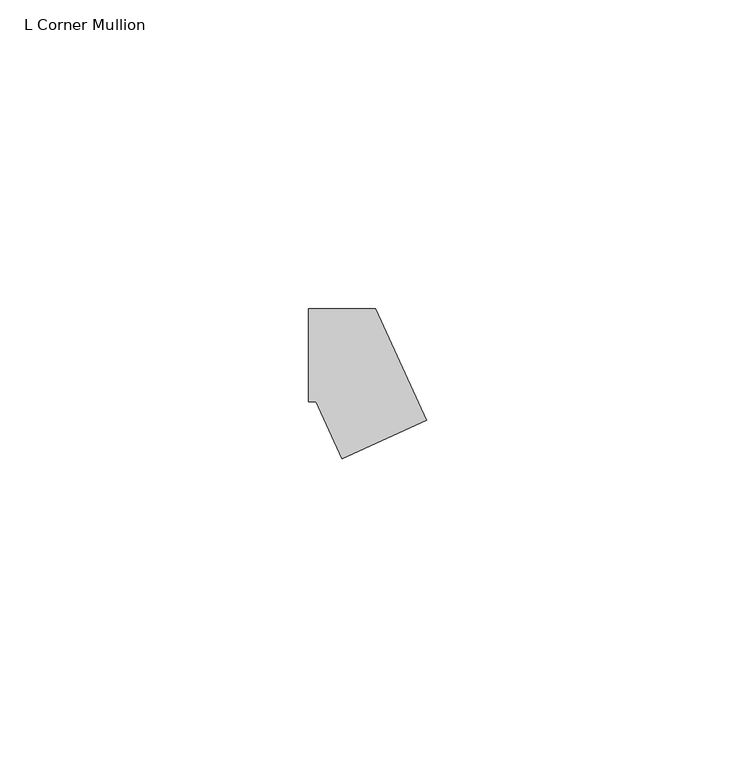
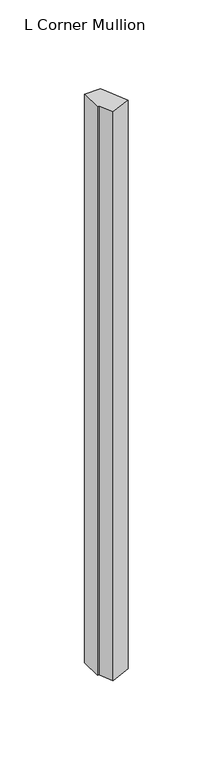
"""IFC4 building model written with IfcOpenShell, lengths in millimetres: member geometry, L Corner Mullion : ARQ_HERR_15X6mm."""

from ifc_helpers import new_model, si_unit, frame, origin, place, context, project, spatial, polyline, outline, extrude, source, transform, mapped, element, save


def l_corner_mullion_ea8db583(model_context):
    return source(origin(), model_context, "Body", "SweptSolid", [
        extrude(outline(polyline([(-0.5775282, -16.7605627), (-4.8156946, -7.5), (-6.0, -7.5), (-6.0, 7.5), (4.8156946, 7.5), (13.0619332, -10.5183601), (-0.5775282, -16.7605627)])), frame((0.0, 0.0, -409.0221418), z_axis=(0.0, 0.0, 1.0), x_axis=(1.0, 0.0, 0.0)), (0.0, 0.0, 1.0), 409.0221418),
    ])


if __name__ == "__main__":
    model = new_model("IFC4")
    model_context = context("Model", 3, world=origin())
    ifc_project = project(units=[si_unit("LENGTHUNIT", "METRE", prefix="MILLI")], contexts=[model_context])
    site = spatial("IfcSite", under=ifc_project)
    building = spatial("IfcBuilding", under=site)
    placement = place(None, origin())
    l_corner_mullion_shape = l_corner_mullion_ea8db583(model_context)
    element("IfcMember", 1, ObjectType="L Corner Mullion : ARQ_HERR_15X6mm", at=placement, inside=building, context=model_context, shape_type="MappedRepresentation", body=[
        mapped(l_corner_mullion_shape, transform((0.0, 0.0, 0.0), x_axis=(1.0, 0.0, 0.0), y_axis=(0.0, 1.0, 0.0), z_axis=(0.0, 0.0, 1.0))),
    ])
    save(model, "model.ifc")
